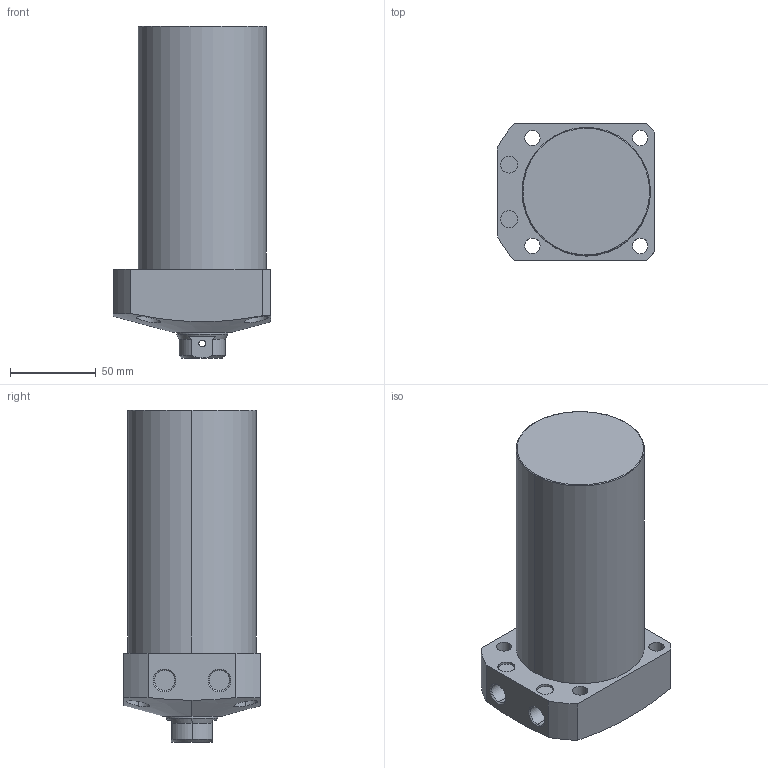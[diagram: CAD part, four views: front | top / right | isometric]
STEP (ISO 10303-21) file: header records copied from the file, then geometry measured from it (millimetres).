
FILE_DESCRIPTION (( 'STEP AP203' ), '1' );
FILE_NAME ('CLL-075CB-105.STEP', '2019-12-24T00:18:43', ( '' ), ( '' ), 'SwSTEP 2.0', 'SolidWorks 2015', '' );
FILE_SCHEMA (( 'CONFIG_CONTROL_DESIGN' ));
Length unit declared in the file: millimetre
Products named in the file (1): CLL-075CB-105
Bounding box: 92 x 80 x 194 mm (x, y, z)
Volume: 846267.2 mm3; surface area: 65871.1 mm2
Topology: 1 solids, 1 shells, 78 faces, 183 edges, 116 vertices
Faces by surface type: cylinder 39, plane 22, cone 15, torus 2
Entity records: 2862 total; most frequent: CARTESIAN_POINT 955, DIRECTION 396, ORIENTED_EDGE 362, EDGE_CURVE 181, AXIS2_PLACEMENT_3D 164, VERTEX_POINT 116, EDGE_LOOP 101, CIRCLE 85
